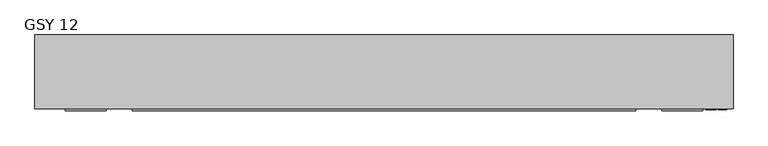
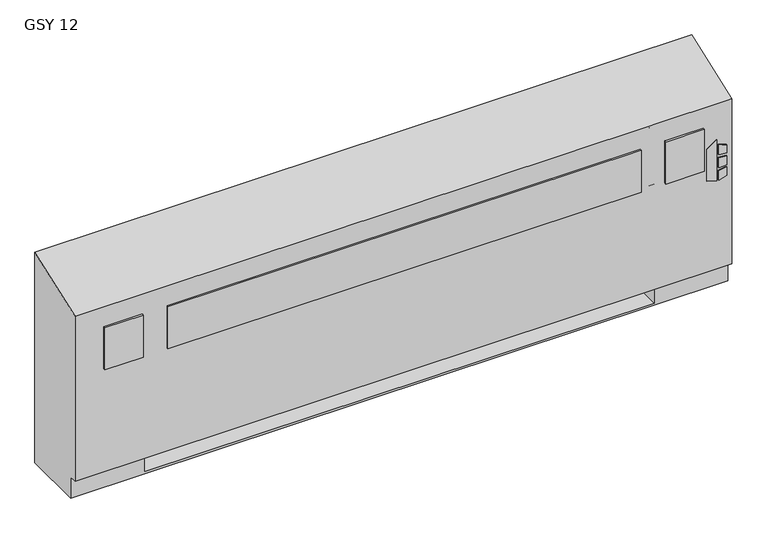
"""IFC4 building model written with IfcOpenShell, lengths in millimetres: proxy geometry, Vertical_Fan_Coil_Unit_-_GSY_-_IEC_-_2-Pipe_FS-FR_RH_2022 : GSY 12."""

from ifc_helpers import new_model, si_unit, point, frame, frame_2d, origin, place, context, project, spatial, polyline, circle_curve, trimmed, segment, composite_curve, outline, extrude, source, transform, mapped, element, save
from ifc_brep_helpers import plane_surface, revolved_surface, advanced_brep


def gsy_12_3b809d4b(model_context):
    return source(origin(), model_context, "Body", "SolidModel", [
        extrude(outline(polyline([(391.6086829, 1147.8368862), (381.6606126, 1180.0102728), (523.831537, 1180.0102728), (500.8095309, 1147.8368862), (391.6086829, 1147.8368862)])), frame((0.0, 12.7, 0.0), z_axis=(0.0, 1.0, 0.0), x_axis=(0.0, 0.0, 1.0)), (0.0, 0.0, 1.0), 3.175),
        extrude(outline(polyline([(470.6079683, 1186.7686058), (467.4055757, 1212.85), (496.6344168, 1212.85), (504.6988318, 1186.7686058), (470.6079683, 1186.7686058)])), frame((0.0, 12.7, 0.0), z_axis=(0.0, 1.0, 0.0), x_axis=(0.0, 0.0, 1.0)), (0.0, 0.0, 1.0), 3.175),
        extrude(outline(polyline([(418.7444414, 1212.85), (415.0789404, 1186.7686058), (381.6606126, 1186.7686058), (390.2948498, 1212.85), (418.7444414, 1212.85)])), frame((0.0, 12.7, 0.0), z_axis=(0.0, 1.0, 0.0), x_axis=(0.0, 0.0, 1.0)), (0.0, 0.0, 1.0), 3.175),
        extrude(outline(polyline([(458.0596028, 1212.85), (460.3414292, 1186.7686058), (424.4038806, 1186.7686058), (427.1451456, 1212.85), (458.0596028, 1212.85)])), frame((0.0, 12.7, 0.0), z_axis=(0.0, 1.0, 0.0), x_axis=(0.0, 0.0, 1.0)), (0.0, 0.0, 1.0), 3.175),
        extrude(outline(polyline([(-705.993, 9.525), (-832.993, 9.525), (-832.993, 15.875), (-705.993, 15.875), (-705.993, 9.525)])), frame((0.0, 0.0, 431.8), z_axis=(0.0, 0.0, 1.0), x_axis=(1.0, 0.0, 0.0)), (0.0, 0.0, 1.0), 146.05),
        extrude(outline(polyline([(930.275, 9.525), (-625.475, 9.525), (-625.475, 15.875), (930.275, 15.875), (930.275, 9.525)])), frame((0.0, 0.0, 431.8), z_axis=(0.0, 0.0, 1.0), x_axis=(1.0, 0.0, 0.0)), (0.0, 0.0, 1.0), 146.05),
        extrude(outline(polyline([(1137.793, 9.525), (1010.793, 9.525), (1010.793, 15.875), (1137.793, 15.875), (1137.793, 9.525)])), frame((0.0, 0.0, 431.8), z_axis=(0.0, 0.0, 1.0), x_axis=(1.0, 0.0, 0.0)), (0.0, 0.0, 1.0), 146.05),
        extrude(outline(polyline([(-806.45, 81.534), (-806.45, 223.266), (-127.0, 223.266), (-127.0, 81.534), (-806.45, 81.534)])), frame((0.0, 0.0, 327.025), z_axis=(0.0, 0.0, 1.0), x_axis=(1.0, 0.0, 0.0)), (0.0, 0.0, 1.0), 260.35),
        extrude(outline(composite_curve([segment(trimmed(circle_curve(frame_2d((80.645, 397.002)), 7.9375), [point((80.645, 404.9395))], [point((80.645, 389.0645))], False, "CARTESIAN"), True, "CONTINUOUS"), segment(trimmed(circle_curve(frame_2d((80.645, 397.002)), 7.9375), [point((80.645, 389.0645))], [point((80.645, 404.9395))], False, "CARTESIAN"), True, "CONTINUOUS")], self_intersect=False)), frame((990.6, 0.0, 0.0), z_axis=(1.0, 0.0, 0.0), x_axis=(0.0, 1.0, 0.0)), (0.0, 0.0, 1.0), 50.8),
        extrude(outline(composite_curve([segment(trimmed(circle_curve(frame_2d((156.8958, 535.8892)), 7.9375), [point((156.8958, 543.8267))], [point((156.8958, 527.9517))], False, "CARTESIAN"), True, "CONTINUOUS"), segment(trimmed(circle_curve(frame_2d((156.8958, 535.8892)), 7.9375), [point((156.8958, 527.9517))], [point((156.8958, 543.8267))], False, "CARTESIAN"), True, "CONTINUOUS")], self_intersect=False)), frame((990.6, 0.0, 0.0), z_axis=(1.0, 0.0, 0.0), x_axis=(0.0, 1.0, 0.0)), (0.0, 0.0, 1.0), 50.8),
        advanced_brep(
        [(-927.1, 244.475, 0.0), (1231.9, 244.475, 0.0), (1231.9, 41.275, 0.0), (-927.1, 41.275, 0.0), (-927.1, 244.475, 730.25), (1231.9, 244.475, 730.25), (990.6, 244.475, 73.025), (1219.2, 244.475, 73.025), (1219.2, 244.475, 654.05), (990.6, 244.475, 654.05), (990.6, 244.475, 414.8650565), (1019.175, 244.475, 414.8650565), (1019.175, 244.475, 385.2349435), (990.6, 244.475, 385.2349435), (990.6, 244.475, 287.3375), (1019.175, 244.475, 287.3375), (1019.175, 244.475, 258.7625), (990.6, 244.475, 258.7625), (990.6, 244.475, 141.2875), (1019.175, 244.475, 141.2875), (1019.175, 244.475, 112.7125), (990.6, 244.475, 112.7125), (-685.8, 244.475, 654.05), (-914.4, 244.475, 654.05), (-914.4, 244.475, 73.025), (-685.8, 244.475, 73.025), (-685.8, 244.475, 112.7125), (-714.375, 244.475, 112.7125), (-714.375, 244.475, 141.2875), (-685.8, 244.475, 141.2875), (-685.8, 244.475, 258.7625), (-714.375, 244.475, 258.7625), (-714.375, 244.475, 287.3375), (-685.8, 244.475, 287.3375), (-685.8, 244.475, 385.2349435), (-714.375, 244.475, 385.2349435), (-714.375, 244.475, 414.8650565), (-685.8, 244.475, 414.8650565), (1008.8626, 244.475, 127.0), (997.7374, 244.475, 127.0), (1008.8626, 244.475, 400.05), (997.7374, 244.475, 400.05), (1008.8626, 244.475, 273.05), (997.7374, 244.475, 273.05), (-692.9374, 244.475, 127.0), (-704.0626, 244.475, 127.0), (-692.9374, 244.475, 273.05), (-704.0626, 244.475, 273.05), (-692.9374, 244.475, 400.05), (-704.0626, 244.475, 400.05), (-927.1, 41.275, 73.025), (-927.1, 15.875, 73.025), (-927.1, 15.875, 647.7), (1231.9, 15.875, 73.025), (1231.9, 15.875, 647.7), (1231.9, 41.275, 73.025), (-685.8, 41.275, 73.025), (-685.8, 225.425, 73.025), (990.6, 225.425, 73.025), (990.6, 41.275, 73.025), (990.6, 41.275, 6.35), (-685.8, 41.275, 6.35), (990.6, 41.275, 654.05), (1219.2, 41.275, 654.05), (1219.2, 41.275, 73.025), (990.6, 41.275, 73.025), (-685.8, 41.275, 654.05), (-685.8, 41.275, 73.025), (-914.4, 41.275, 73.025), (-914.4, 41.275, 654.05), (990.6, 225.425, 73.025), (990.6, 238.125, 112.7125), (990.6, 238.125, 141.2875), (990.6, 238.125, 258.7625), (990.6, 238.125, 287.3375), (990.6, 238.125, 385.2349435), (990.6, 238.125, 414.8650565), (-685.8, 225.425, 73.025), (-685.8, 238.125, 414.8650565), (-685.8, 238.125, 385.2349435), (-685.8, 238.125, 287.3375), (-685.8, 238.125, 258.7625), (-685.8, 238.125, 141.2875), (-685.8, 238.125, 112.7125), (-685.8, 225.425, 6.35), (990.6, 225.425, 6.35), (1019.175, 238.125, 112.7125), (1019.175, 238.125, 141.2875), (997.7374, 238.125, 127.0), (1008.8626, 238.125, 127.0), (1019.175, 238.125, 258.7625), (1019.175, 238.125, 287.3375), (997.7374, 238.125, 273.05), (1008.8626, 238.125, 273.05), (1019.175, 238.125, 385.2349435), (1019.175, 238.125, 414.8650565), (997.7374, 238.125, 400.05), (1008.8626, 238.125, 400.05), (-714.375, 238.125, 141.2875), (-714.375, 238.125, 112.7125), (-704.0626, 238.125, 127.0), (-692.9374, 238.125, 127.0), (-714.375, 238.125, 287.3375), (-714.375, 238.125, 258.7625), (-704.0626, 238.125, 273.05), (-692.9374, 238.125, 273.05), (-714.375, 238.125, 414.8650565), (-714.375, 238.125, 385.2349435), (-704.0626, 238.125, 400.05), (-692.9374, 238.125, 400.05)],
        [
            (0, 1),
            (1, 2),
            (2, 3),
            (3, 0),
            (0, 4),
            (4, 5),
            (5, 1),
            (6, 7),
            (7, 8),
            (8, 9),
            (9, 10),
            (10, 11),
            (11, 12),
            (12, 13),
            (13, 14),
            (14, 15),
            (15, 16),
            (16, 17),
            (17, 18),
            (18, 19),
            (19, 20),
            (20, 21),
            (21, 6),
            (22, 23),
            (23, 24),
            (24, 25),
            (25, 26),
            (26, 27),
            (27, 28),
            (28, 29),
            (29, 30),
            (30, 31),
            (31, 32),
            (32, 33),
            (33, 34),
            (34, 35),
            (35, 36),
            (36, 37),
            (37, 22),
            (38, 39, circle_curve(frame((1003.3, 244.475, 127.0), z_axis=(0.0, -1.0, 0.0), x_axis=(-1.0, 0.0, 0.0)), 5.5626)),
            (39, 38, circle_curve(frame((1003.3, 244.475, 127.0), z_axis=(0.0, -1.0, 0.0), x_axis=(-1.0, 0.0, 0.0)), 5.5626)),
            (40, 41, circle_curve(frame((1003.3, 244.475, 400.05), z_axis=(0.0, -1.0, 0.0), x_axis=(-1.0, 0.0, 0.0)), 5.5626)),
            (41, 40, circle_curve(frame((1003.3, 244.475, 400.05), z_axis=(0.0, -1.0, 0.0), x_axis=(-1.0, 0.0, 0.0)), 5.5626)),
            (42, 43, circle_curve(frame((1003.3, 244.475, 273.05), z_axis=(0.0, -1.0, 0.0), x_axis=(-1.0, 0.0, 0.0)), 5.5626)),
            (43, 42, circle_curve(frame((1003.3, 244.475, 273.05), z_axis=(0.0, -1.0, 0.0), x_axis=(-1.0, 0.0, 0.0)), 5.5626)),
            (44, 45, circle_curve(frame((-698.5, 244.475, 127.0), z_axis=(0.0, -1.0, 0.0), x_axis=(-1.0, 0.0, 0.0)), 5.5626)),
            (45, 44, circle_curve(frame((-698.5, 244.475, 127.0), z_axis=(0.0, -1.0, 0.0), x_axis=(-1.0, 0.0, 0.0)), 5.5626)),
            (46, 47, circle_curve(frame((-698.5, 244.475, 273.05), z_axis=(0.0, -1.0, 0.0), x_axis=(-1.0, 0.0, 0.0)), 5.5626)),
            (47, 46, circle_curve(frame((-698.5, 244.475, 273.05), z_axis=(0.0, -1.0, 0.0), x_axis=(-1.0, 0.0, 0.0)), 5.5626)),
            (48, 49, circle_curve(frame((-698.5, 244.475, 400.05), z_axis=(0.0, -1.0, 0.0), x_axis=(-1.0, 0.0, 0.0)), 5.5626)),
            (49, 48, circle_curve(frame((-698.5, 244.475, 400.05), z_axis=(0.0, -1.0, 0.0), x_axis=(-1.0, 0.0, 0.0)), 5.5626)),
            (3, 50),
            (50, 51),
            (51, 52),
            (52, 4),
            (51, 53),
            (53, 54),
            (54, 52),
            (5, 54),
            (53, 55),
            (55, 2),
            (50, 56),
            (56, 57),
            (57, 58),
            (58, 59),
            (59, 55),
            (59, 60),
            (60, 61),
            (61, 56),
            (62, 63),
            (63, 64),
            (64, 65),
            (65, 62),
            (66, 67),
            (67, 68),
            (68, 69),
            (69, 66),
            (65, 70),
            (70, 6),
            (21, 71),
            (71, 72),
            (72, 18),
            (17, 73),
            (73, 74),
            (74, 14),
            (13, 75),
            (75, 76),
            (76, 10),
            (9, 62),
            (64, 7),
            (63, 8),
            (69, 23),
            (22, 66),
            (68, 24),
            (67, 77),
            (77, 25),
            (37, 78),
            (78, 79),
            (79, 34),
            (33, 80),
            (80, 81),
            (81, 30),
            (29, 82),
            (82, 83),
            (83, 26),
            (57, 84),
            (84, 85),
            (85, 58),
            (85, 60),
            (84, 61),
            (71, 86),
            (86, 87),
            (87, 72),
            (88, 89, circle_curve(frame((1003.3, 238.125, 127.0), z_axis=(0.0, 1.0, 0.0), x_axis=(-1.0, 0.0, 0.0)), 5.5626)),
            (89, 88, circle_curve(frame((1003.3, 238.125, 127.0), z_axis=(0.0, 1.0, 0.0), x_axis=(-1.0, 0.0, 0.0)), 5.5626)),
            (73, 90),
            (90, 91),
            (91, 74),
            (92, 93, circle_curve(frame((1003.3, 238.125, 273.05), z_axis=(0.0, 1.0, 0.0), x_axis=(-1.0, 0.0, 0.0)), 5.5626)),
            (93, 92, circle_curve(frame((1003.3, 238.125, 273.05), z_axis=(0.0, 1.0, 0.0), x_axis=(-1.0, 0.0, 0.0)), 5.5626)),
            (75, 94),
            (94, 95),
            (95, 76),
            (96, 97, circle_curve(frame((1003.3, 238.125, 400.05), z_axis=(0.0, 1.0, 0.0), x_axis=(-1.0, 0.0, 0.0)), 5.5626)),
            (97, 96, circle_curve(frame((1003.3, 238.125, 400.05), z_axis=(0.0, 1.0, 0.0), x_axis=(-1.0, 0.0, 0.0)), 5.5626)),
            (98, 99),
            (99, 83),
            (82, 98),
            (100, 101, circle_curve(frame((-698.5, 238.125, 127.0), z_axis=(0.0, 1.0, 0.0), x_axis=(-1.0, 0.0, 0.0)), 5.5626)),
            (101, 100, circle_curve(frame((-698.5, 238.125, 127.0), z_axis=(0.0, 1.0, 0.0), x_axis=(-1.0, 0.0, 0.0)), 5.5626)),
            (102, 103),
            (103, 81),
            (80, 102),
            (104, 105, circle_curve(frame((-698.5, 238.125, 273.05), z_axis=(0.0, 1.0, 0.0), x_axis=(-1.0, 0.0, 0.0)), 5.5626)),
            (105, 104, circle_curve(frame((-698.5, 238.125, 273.05), z_axis=(0.0, 1.0, 0.0), x_axis=(-1.0, 0.0, 0.0)), 5.5626)),
            (106, 107),
            (107, 79),
            (78, 106),
            (108, 109, circle_curve(frame((-698.5, 238.125, 400.05), z_axis=(0.0, 1.0, 0.0), x_axis=(-1.0, 0.0, 0.0)), 5.5626)),
            (109, 108, circle_curve(frame((-698.5, 238.125, 400.05), z_axis=(0.0, 1.0, 0.0), x_axis=(-1.0, 0.0, 0.0)), 5.5626)),
            (87, 19),
            (86, 20),
            (91, 15),
            (90, 16),
            (95, 11),
            (94, 12),
            (28, 98),
            (99, 27),
            (32, 102),
            (103, 31),
            (36, 106),
            (107, 35),
            (88, 39),
            (38, 89),
            (96, 41),
            (40, 97),
            (92, 43),
            (42, 93),
            (100, 45),
            (44, 101),
            (104, 47),
            (46, 105),
            (108, 49),
            (48, 109),
        ],
        [
            plane_surface(frame((-927.1, 244.475, 0.0), z_axis=(0.0, 0.0, -1.0), x_axis=(1.0, 0.0, 0.0))),
            plane_surface(frame((1231.9, 244.475, 730.25), z_axis=(0.0, 1.0, 0.0), x_axis=(0.0, 0.0, -1.0))),
            plane_surface(frame((-927.1, 244.475, 730.25), z_axis=(-1.0, 0.0, 0.0), x_axis=(0.0, 0.0, -1.0))),
            plane_surface(frame((-927.1, 15.875, 730.25), z_axis=(0.0, -1.0, 0.0), x_axis=(0.0, 0.0, -1.0))),
            plane_surface(frame((1231.9, 15.875, 730.25), z_axis=(1.0, 0.0, 0.0), x_axis=(0.0, 0.0, -1.0))),
            plane_surface(frame((-927.1, 15.875, 73.025), z_axis=(0.0, 0.0, -1.0), x_axis=(1.0, 0.0, 0.0))),
            plane_surface(frame((-927.1, 41.275, 73.025), z_axis=(0.0, -1.0, 0.0), x_axis=(1.0, 0.0, 0.0))),
            plane_surface(frame((990.6, 41.275, 654.05), z_axis=(0.0, 1.0, 0.0), x_axis=(0.0, 0.0, -1.0))),
            plane_surface(frame((990.6, 41.275, 654.05), z_axis=(1.0, 0.0, 0.0), x_axis=(0.0, 1.0, 0.0))),
            plane_surface(frame((990.6, 41.275, 73.025), z_axis=(0.0, 0.0, 1.0), x_axis=(0.0, 1.0, 0.0))),
            plane_surface(frame((1219.2, 41.275, 73.025), z_axis=(-1.0, 0.0, 0.0), x_axis=(0.0, 1.0, 0.0))),
            plane_surface(frame((1219.2, 41.275, 654.05), z_axis=(0.0, 0.0, -1.0), x_axis=(0.0, 1.0, 0.0))),
            plane_surface(frame((-685.8, 41.275, 654.05), z_axis=(0.0, 0.0, -1.0), x_axis=(0.0, 1.0, 0.0))),
            plane_surface(frame((-914.4, 41.275, 654.05), z_axis=(1.0, 0.0, 0.0), x_axis=(0.0, 1.0, 0.0))),
            plane_surface(frame((-914.4, 41.275, 73.025), z_axis=(0.0, 0.0, 1.0), x_axis=(0.0, 1.0, 0.0))),
            plane_surface(frame((-685.8, 41.275, 73.025), z_axis=(-1.0, 0.0, 0.0), x_axis=(0.0, 1.0, 0.0))),
            plane_surface(frame((990.6, 225.425, 73.025), z_axis=(0.0, -1.0, 0.0), x_axis=(0.0, 0.0, -1.0))),
            plane_surface(frame((990.6, 225.425, 73.025), z_axis=(-1.0, 0.0, 0.0), x_axis=(0.0, -1.0, 0.0))),
            plane_surface(frame((990.6, 225.425, 6.35), z_axis=(0.0, 0.0, 1.0), x_axis=(0.0, -1.0, 0.0))),
            plane_surface(frame((-685.8, 225.425, 6.35), z_axis=(1.0, 0.0, 0.0), x_axis=(0.0, -1.0, 0.0))),
            plane_surface(frame((1019.175, 238.125, 141.2875), z_axis=(0.0, -1.0, 0.0), x_axis=(-1.0, 0.0, 0.0))),
            plane_surface(frame((990.6, 244.475, 141.2875), z_axis=(0.0, 0.0, 1.0), x_axis=(0.0, -1.0, 0.0))),
            plane_surface(frame((1019.175, 244.475, 141.2875), z_axis=(1.0, 0.0, 0.0), x_axis=(0.0, -1.0, 0.0))),
            plane_surface(frame((1019.175, 244.475, 112.7125), z_axis=(0.0, 0.0, -1.0), x_axis=(0.0, -1.0, 0.0))),
            plane_surface(frame((990.6, 244.475, 287.3375), z_axis=(0.0, 0.0, 1.0), x_axis=(0.0, -1.0, 0.0))),
            plane_surface(frame((1019.175, 244.475, 287.3375), z_axis=(1.0, 0.0, 0.0), x_axis=(0.0, -1.0, 0.0))),
            plane_surface(frame((1019.175, 244.475, 258.7625), z_axis=(0.0, 0.0, -1.0), x_axis=(0.0, -1.0, 0.0))),
            plane_surface(frame((990.6, 244.475, 414.8650565), z_axis=(0.0, 0.0, 1.0), x_axis=(0.0, -1.0, 0.0))),
            plane_surface(frame((1019.175, 244.475, 414.8650565), z_axis=(1.0, 0.0, 0.0), x_axis=(0.0, -1.0, 0.0))),
            plane_surface(frame((1019.175, 244.475, 385.2349435), z_axis=(0.0, 0.0, -1.0), x_axis=(0.0, -1.0, 0.0))),
            plane_surface(frame((-714.375, 244.475, 141.2875), z_axis=(0.0, 0.0, 1.0), x_axis=(0.0, -1.0, 0.0))),
            plane_surface(frame((-685.8, 244.475, 112.7125), z_axis=(0.0, 0.0, -1.0), x_axis=(0.0, -1.0, 0.0))),
            plane_surface(frame((-714.375, 244.475, 112.7125), z_axis=(-1.0, 0.0, 0.0), x_axis=(0.0, -1.0, 0.0))),
            plane_surface(frame((-714.375, 244.475, 287.3375), z_axis=(0.0, 0.0, 1.0), x_axis=(0.0, -1.0, 0.0))),
            plane_surface(frame((-685.8, 244.475, 258.7625), z_axis=(0.0, 0.0, -1.0), x_axis=(0.0, -1.0, 0.0))),
            plane_surface(frame((-714.375, 244.475, 258.7625), z_axis=(-1.0, 0.0, 0.0), x_axis=(0.0, -1.0, 0.0))),
            plane_surface(frame((-714.375, 244.475, 414.8650565), z_axis=(0.0, 0.0, 1.0), x_axis=(0.0, -1.0, 0.0))),
            plane_surface(frame((-685.8, 244.475, 385.2349435), z_axis=(0.0, 0.0, -1.0), x_axis=(0.0, -1.0, 0.0))),
            plane_surface(frame((-714.375, 244.475, 385.2349435), z_axis=(-1.0, 0.0, 0.0), x_axis=(0.0, -1.0, 0.0))),
            revolved_surface(polyline([(997.7374, 238.125, 127.0), (997.7374, 244.475, 127.0)]), (1003.3, 244.475, 127.0), (0.0, -1.0, 0.0)),
            revolved_surface(polyline([(997.7374, 238.125, 400.05), (997.7374, 244.475, 400.05)]), (1003.3, 244.475, 400.05), (0.0, -1.0, 0.0)),
            revolved_surface(polyline([(997.7374, 238.125, 273.05), (997.7374, 244.475, 273.05)]), (1003.3, 244.475, 273.05), (0.0, -1.0, 0.0)),
            revolved_surface(polyline([(-704.0626, 238.125, 127.0), (-704.0626, 244.475, 127.0)]), (-698.5, 244.475, 127.0), (0.0, -1.0, 0.0)),
            revolved_surface(polyline([(-704.0626, 238.125, 273.05), (-704.0626, 244.475, 273.05)]), (-698.5, 244.475, 273.05), (0.0, -1.0, 0.0)),
            revolved_surface(polyline([(-704.0626, 238.125, 400.05), (-704.0626, 244.475, 400.05)]), (-698.5, 244.475, 400.05), (0.0, -1.0, 0.0)),
            plane_surface(frame((-927.1, 244.475, 730.25), z_axis=(0.0, -0.33964446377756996, 0.9405538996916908), x_axis=(1.0, 0.0, 0.0))),
        ],
        [
            (0, [[1, 2, 3, 4]]),
            (1, [[-1, 5, 6, 7], [8, 9, 10, 11, 12, 13, 14, 15, 16, 17, 18, 19, 20, 21, 22, 23], [24, 25, 26, 27, 28, 29, 30, 31, 32, 33, 34, 35, 36, 37, 38, 39], [40, 41], [42, 43], [44, 45], [46, 47], [48, 49], [50, 51]]),
            (2, [[-5, -4, 52, 53, 54, 55]]),
            (3, [[56, 57, 58, -54]]),
            (4, [[-7, 59, -57, 60, 61, -2]]),
            (5, [[-53, 62, 63, 64, 65, 66, -60, -56]]),
            (6, [[-3, -61, -66, 67, 68, 69, -62, -52]]),
            (7, [[70, 71, 72, 73]]),
            (7, [[74, 75, 76, 77]]),
            (8, [[-73, 78, 79, -23, 80, 81, 82, -19, 83, 84, 85, -15, 86, 87, 88, -11, 89]]),
            (9, [[-72, 90, -8, -79, -78]]),
            (10, [[-71, 91, -9, -90]]),
            (11, [[-70, -89, -10, -91]]),
            (12, [[-77, 92, -24, 93]]),
            (13, [[-76, 94, -25, -92]]),
            (14, [[-75, 95, 96, -26, -94]]),
            (15, [[-74, -93, -39, 97, 98, 99, -35, 100, 101, 102, -31, 103, 104, 105, -27, -96, -95]]),
            (16, [[-64, 106, 107, 108]]),
            (17, [[-108, 109, -67, -65]]),
            (18, [[-107, 110, -68, -109]]),
            (19, [[-106, -63, -69, -110]]),
            (20, [[111, 112, 113, -81], [114, 115]]),
            (20, [[116, 117, 118, -84], [119, 120]]),
            (20, [[121, 122, 123, -87], [124, 125]]),
            (20, [[126, 127, -104, 128], [129, 130]]),
            (20, [[131, 132, -101, 133], [134, 135]]),
            (20, [[136, 137, -98, 138], [139, 140]]),
            (21, [[-113, 141, -20, -82]]),
            (22, [[-112, 142, -21, -141]]),
            (23, [[-111, -80, -22, -142]]),
            (24, [[-118, 143, -16, -85]]),
            (25, [[-117, 144, -17, -143]]),
            (26, [[-116, -83, -18, -144]]),
            (27, [[-123, 145, -12, -88]]),
            (28, [[-122, 146, -13, -145]]),
            (29, [[-121, -86, -14, -146]]),
            (30, [[-128, -103, -30, 147]]),
            (31, [[-127, 148, -28, -105]]),
            (32, [[-126, -147, -29, -148]]),
            (33, [[-133, -100, -34, 149]]),
            (34, [[-132, 150, -32, -102]]),
            (35, [[-131, -149, -33, -150]]),
            (36, [[-138, -97, -38, 151]]),
            (37, [[-137, 152, -36, -99]]),
            (38, [[-136, -151, -37, -152]]),
            (39, [[153, -40, 154, -114]]),
            (39, [[-153, -115, -154, -41]]),
            (40, [[155, -42, 156, -124]]),
            (40, [[-155, -125, -156, -43]]),
            (41, [[157, -44, 158, -119]]),
            (41, [[-157, -120, -158, -45]]),
            (42, [[159, -46, 160, -129]]),
            (42, [[-159, -130, -160, -47]]),
            (43, [[161, -48, 162, -134]]),
            (43, [[-161, -135, -162, -49]]),
            (44, [[163, -50, 164, -139]]),
            (44, [[-163, -140, -164, -51]]),
            (45, [[-6, -55, -58, -59]]),
        ],
    ),
    ])


if __name__ == "__main__":
    model = new_model("IFC4")
    model_context = context("Model", 3, world=origin())
    ifc_project = project(units=[si_unit("LENGTHUNIT", "METRE", prefix="MILLI")], contexts=[model_context])
    site = spatial("IfcSite", under=ifc_project)
    building = spatial("IfcBuilding", under=site)
    placement = place(None, origin())
    gsy_12_shape = gsy_12_3b809d4b(model_context)
    element("IfcBuildingElementProxy", 1, Name="Vertical_Fan_Coil_Unit_-_GSY_-_IEC_-_2-Pipe_FS-FR_RH_2022 : GSY 12", ObjectType="Vertical_Fan_Coil_Unit_-_GSY_-_IEC_-_2-Pipe_FS-FR_RH_2022 : GSY 12", at=placement, inside=building, context=model_context, shape_type="MappedRepresentation", body=[
        mapped(gsy_12_shape, transform((0.0, 0.0, 0.0), x_axis=(1.0, 0.0, 0.0), y_axis=(0.0, 1.0, 0.0), z_axis=(0.0, 0.0, 1.0))),
    ])
    save(model, "model.ifc")
